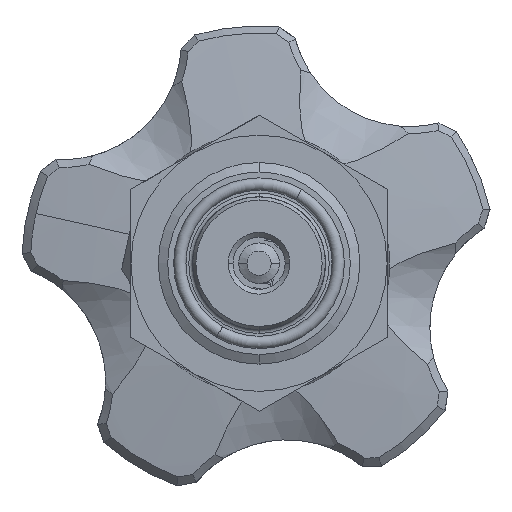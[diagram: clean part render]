
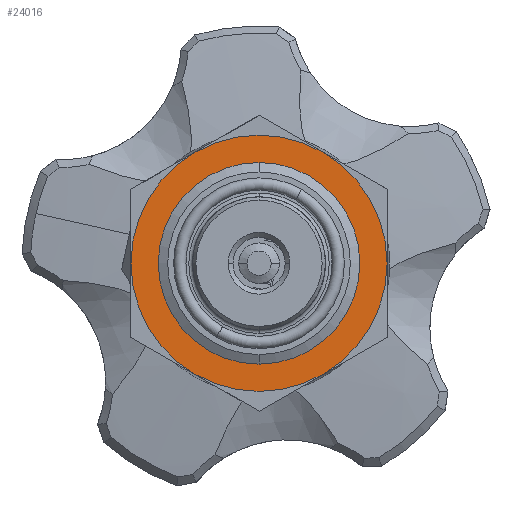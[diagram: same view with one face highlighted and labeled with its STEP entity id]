
A CAD part, front view. The second image highlights one B-rep face of the part: STEP entity #24016.
In plain terms, the highlighted planar face has unit normal (0, -1, 0).
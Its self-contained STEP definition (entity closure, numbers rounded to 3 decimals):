
#26 = EDGE_CURVE ( 'NONE', #16830, #11707, #20012, .T. ) ;
#675 = EDGE_CURVE ( 'NONE', #4729, #3216, #12989, .T. ) ;
#2980 = EDGE_LOOP ( 'NONE', ( #15357, #11919 ) ) ;
#3216 = VERTEX_POINT ( 'NONE', #10213 ) ;
#3371 = FACE_OUTER_BOUND ( 'NONE', #2980, .T. ) ;
#3472 = CARTESIAN_POINT ( 'NONE',  ( 0., -25., -13.5 ) ) ;
#4346 = DIRECTION ( 'NONE',  ( 0., 0., -1. ) ) ;
#4729 = VERTEX_POINT ( 'NONE', #10686 ) ;
#4991 = AXIS2_PLACEMENT_3D ( 'NONE', #5813, #7457, #12535 ) ;
#5135 = AXIS2_PLACEMENT_3D ( 'NONE', #10159, #23104, #12009 ) ;
#5813 = CARTESIAN_POINT ( 'NONE',  ( 0., -25., 0. ) ) ;
#7457 = DIRECTION ( 'NONE',  ( 0., -1., 0. ) ) ;
#9611 = CARTESIAN_POINT ( 'NONE',  ( 0., -25., 0. ) ) ;
#10159 = CARTESIAN_POINT ( 'NONE',  ( 0., -25., 0. ) ) ;
#10197 = ORIENTED_EDGE ( 'NONE', *, *, #14423, .F. ) ;
#10213 = CARTESIAN_POINT ( 'NONE',  ( 0., -25., -10. ) ) ;
#10613 = AXIS2_PLACEMENT_3D ( 'NONE', #12917, #15435, #4346 ) ;
#10686 = CARTESIAN_POINT ( 'NONE',  ( 0., -25., 10. ) ) ;
#10909 = PLANE ( 'NONE',  #21543 ) ;
#10988 = DIRECTION ( 'NONE',  ( 0., 1., 0. ) ) ;
#11453 = DIRECTION ( 'NONE',  ( 0., 0., -1. ) ) ;
#11707 = VERTEX_POINT ( 'NONE', #14978 ) ;
#11919 = ORIENTED_EDGE ( 'NONE', *, *, #18031, .T. ) ;
#12009 = DIRECTION ( 'NONE',  ( 0., 0., -1. ) ) ;
#12535 = DIRECTION ( 'NONE',  ( 0., 0., -1. ) ) ;
#12917 = CARTESIAN_POINT ( 'NONE',  ( 0., -25., 0. ) ) ;
#12989 = CIRCLE ( 'NONE', #4991, 10. ) ;
#14423 = EDGE_CURVE ( 'NONE', #3216, #4729, #14780, .T. ) ;
#14780 = CIRCLE ( 'NONE', #17023, 10. ) ;
#14978 = CARTESIAN_POINT ( 'NONE',  ( 0., -25., 13.5 ) ) ;
#15357 = ORIENTED_EDGE ( 'NONE', *, *, #26, .T. ) ;
#15435 = DIRECTION ( 'NONE',  ( 0., -1., 0. ) ) ;
#16830 = VERTEX_POINT ( 'NONE', #3472 ) ;
#17023 = AXIS2_PLACEMENT_3D ( 'NONE', #9611, #22560, #11453 ) ;
#18031 = EDGE_CURVE ( 'NONE', #11707, #16830, #20663, .T. ) ;
#20012 = CIRCLE ( 'NONE', #10613, 13.5 ) ;
#20663 = CIRCLE ( 'NONE', #5135, 13.5 ) ;
#21117 = ORIENTED_EDGE ( 'NONE', *, *, #675, .F. ) ;
#21543 = AXIS2_PLACEMENT_3D ( 'NONE', #22080, #10988, #23955 ) ;
#22080 = CARTESIAN_POINT ( 'NONE',  ( 0., -25., -31.843 ) ) ;
#22541 = FACE_BOUND ( 'NONE', #23631, .T. ) ;
#22560 = DIRECTION ( 'NONE',  ( 0., -1., 0. ) ) ;
#23104 = DIRECTION ( 'NONE',  ( 0., -1., 0. ) ) ;
#23631 = EDGE_LOOP ( 'NONE', ( #21117, #10197 ) ) ;
#23955 = DIRECTION ( 'NONE',  ( 0., 0., 1. ) ) ;
#24016 = ADVANCED_FACE ( 'NONE', ( #22541, #3371 ), #10909, .F. ) ;
